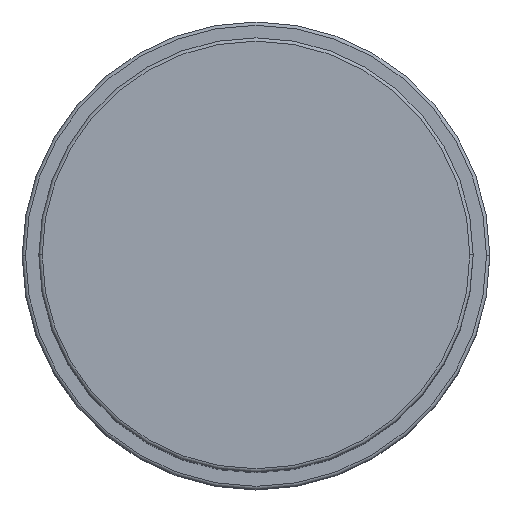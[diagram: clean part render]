
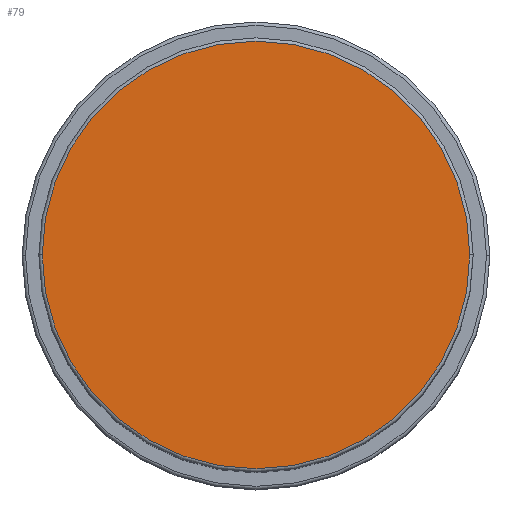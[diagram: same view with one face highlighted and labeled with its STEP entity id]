
A CAD part, top view. The second image highlights one B-rep face of the part: STEP entity #79.
In plain terms, the highlighted planar face has unit normal (0, 0, 1).
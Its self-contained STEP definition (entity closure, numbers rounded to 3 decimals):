
#30 = CARTESIAN_POINT ( 'NONE',  ( 0., 0., 102. ) ) ;
#66 = CIRCLE ( 'NONE', #649, 32. ) ;
#79 = ADVANCED_FACE ( 'NONE', ( #747 ), #1399, .T. ) ;
#114 = DIRECTION ( 'NONE',  ( 0., 0., 1. ) ) ;
#218 = AXIS2_PLACEMENT_3D ( 'NONE', #30, #406, #1030 ) ;
#231 = EDGE_CURVE ( 'NONE', #256, #1512, #1263, .T. ) ;
#256 = VERTEX_POINT ( 'NONE', #278 ) ;
#278 = CARTESIAN_POINT ( 'NONE',  ( -32., 0., 102. ) ) ;
#406 = DIRECTION ( 'NONE',  ( 0., 0., 1. ) ) ;
#433 = CARTESIAN_POINT ( 'NONE',  ( 0., 0., 102. ) ) ;
#452 = EDGE_CURVE ( 'NONE', #1512, #256, #66, .T. ) ;
#580 = CARTESIAN_POINT ( 'NONE',  ( 32., 0., 102. ) ) ;
#641 = CARTESIAN_POINT ( 'NONE',  ( 0., 0., 102. ) ) ;
#649 = AXIS2_PLACEMENT_3D ( 'NONE', #433, #934, #1340 ) ;
#670 = ORIENTED_EDGE ( 'NONE', *, *, #231, .T. ) ;
#695 = AXIS2_PLACEMENT_3D ( 'NONE', #641, #114, #1539 ) ;
#747 = FACE_OUTER_BOUND ( 'NONE', #1173, .T. ) ;
#934 = DIRECTION ( 'NONE',  ( 0., 0., 1. ) ) ;
#1030 = DIRECTION ( 'NONE',  ( 1., 0., 0. ) ) ;
#1173 = EDGE_LOOP ( 'NONE', ( #1293, #670 ) ) ;
#1263 = CIRCLE ( 'NONE', #218, 32. ) ;
#1293 = ORIENTED_EDGE ( 'NONE', *, *, #452, .T. ) ;
#1340 = DIRECTION ( 'NONE',  ( 1., 0., 0. ) ) ;
#1399 = PLANE ( 'NONE',  #695 ) ;
#1512 = VERTEX_POINT ( 'NONE', #580 ) ;
#1539 = DIRECTION ( 'NONE',  ( 1., 0., 0. ) ) ;
